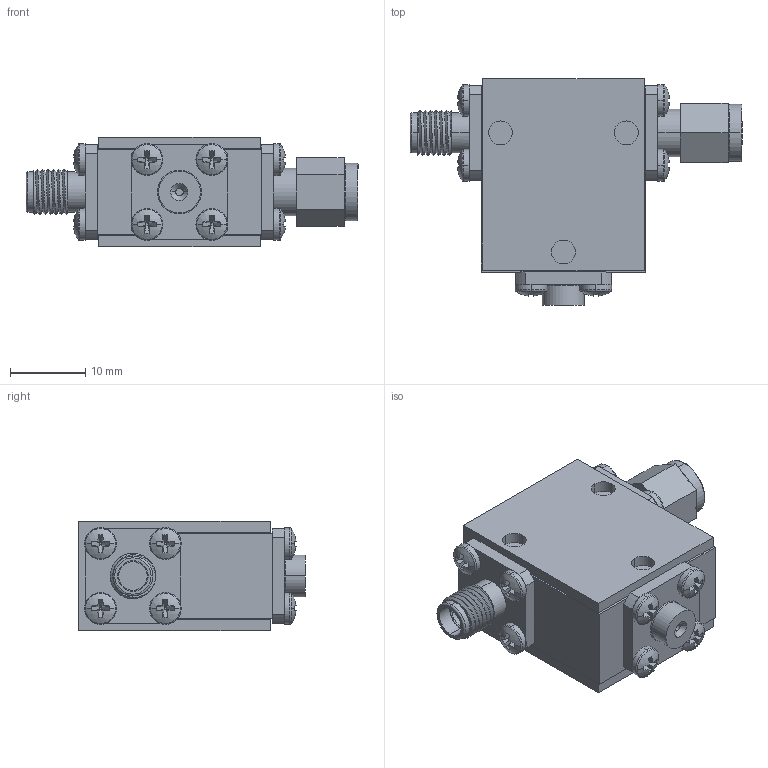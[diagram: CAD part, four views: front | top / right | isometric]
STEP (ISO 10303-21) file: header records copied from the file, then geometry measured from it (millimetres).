
FILE_DESCRIPTION (( 'STEP AP214' ), '1' );
FILE_NAME ('Package 4-2 Iso FM - Cryo Shielded.STEP', '2023-12-20T00:17:07', ( '' ), ( '' ), 'SwSTEP 2.0', 'SolidWorks 2016', '' );
FILE_SCHEMA (( 'AUTOMOTIVE_DESIGN' ));
Length unit declared in the file: inch
Products named in the file (7): Package 4-2 Iso FM - Cryo Shielded; pan cross head_ai_CR-PHMS 0.086-56x0.125x0.125-N; Package Size 4; 030013-1A Same Base thickness as connectors; WR054; Delta SMA-Male; Delta SMA-Female 0.500 flange Threaded
Assembly tree (17 placements, depth 2):
  Package 4-2 Iso FM - Cryo Shielded
    Package Size 4
    Delta SMA-Female 0.500 flange Threaded
    pan cross head_ai_CR-PHMS 0.086-56x0.125x0.125-N  x12
    WR054
    Delta SMA-Male
    030013-1A Same Base thickness as connectors
Bounding box: 44.25 x 30.23 x 14.58 mm (x, y, z)
Volume: 9419.7 mm3; surface area: 7946.8 mm2
Topology: 17 solids, 17 shells, 430 faces, 985 edges, 609 vertices
Faces by surface type: plane 237, cylinder 128, torus 34, sphere 24, cone 4, bspline 3
Entity records: 6509 total; most frequent: CARTESIAN_POINT 1650, DIRECTION 1039, ORIENTED_EDGE 870, EDGE_CURVE 435, AXIS2_PLACEMENT_3D 418, VERTEX_POINT 279, EDGE_LOOP 236, CIRCLE 224
